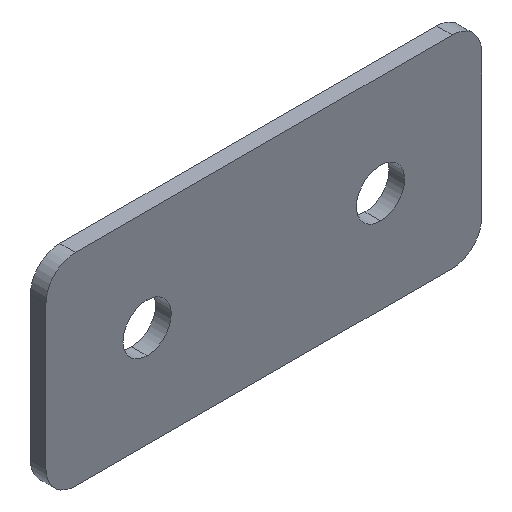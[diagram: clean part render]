
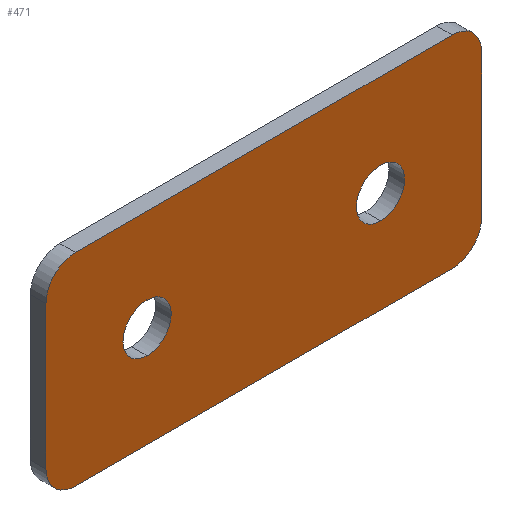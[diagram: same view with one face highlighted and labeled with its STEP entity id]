
A CAD part, isometric view. The second image highlights one B-rep face of the part: STEP entity #471.
In plain terms, the highlighted planar face has unit normal (0, -1, 0).
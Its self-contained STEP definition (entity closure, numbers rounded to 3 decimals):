
#6 = CARTESIAN_POINT ( 'NONE',  ( -9.081, 0., -9.351 ) ) ;
#8 = CIRCLE ( 'NONE', #52, 3.784 ) ;
#14 = DIRECTION ( 'NONE',  ( 0., 0., 1. ) ) ;
#20 = FACE_BOUND ( 'NONE', #391, .T. ) ;
#30 = EDGE_CURVE ( 'NONE', #383, #57, #132, .T. ) ;
#31 = CIRCLE ( 'NONE', #332, 3.784 ) ;
#33 = DIRECTION ( 'NONE',  ( 0., 1., 0. ) ) ;
#36 = VERTEX_POINT ( 'NONE', #462 ) ;
#37 = DIRECTION ( 'NONE',  ( 0., 0., -1. ) ) ;
#44 = CARTESIAN_POINT ( 'NONE',  ( 30.135, 0., -0.135 ) ) ;
#46 = ORIENTED_EDGE ( 'NONE', *, *, #241, .T. ) ;
#47 = DIRECTION ( 'NONE',  ( 0., 1., 0. ) ) ;
#52 = AXIS2_PLACEMENT_3D ( 'NONE', #170, #456, #14 ) ;
#53 = DIRECTION ( 'NONE',  ( 0., 0., 1. ) ) ;
#54 = DIRECTION ( 'NONE',  ( 1., 0., 0. ) ) ;
#57 = VERTEX_POINT ( 'NONE', #336 ) ;
#61 = AXIS2_PLACEMENT_3D ( 'NONE', #496, #366, #455 ) ;
#67 = CARTESIAN_POINT ( 'NONE',  ( 0.135, 0., -0.135 ) ) ;
#70 = DIRECTION ( 'NONE',  ( 0., 0., 1. ) ) ;
#73 = VERTEX_POINT ( 'NONE', #466 ) ;
#76 = LINE ( 'NONE', #503, #504 ) ;
#84 = ORIENTED_EDGE ( 'NONE', *, *, #185, .T. ) ;
#86 = ORIENTED_EDGE ( 'NONE', *, *, #127, .F. ) ;
#88 = CIRCLE ( 'NONE', #482, 3.784 ) ;
#101 = ORIENTED_EDGE ( 'NONE', *, *, #420, .F. ) ;
#107 = EDGE_CURVE ( 'NONE', #499, #407, #207, .T. ) ;
#111 = DIRECTION ( 'NONE',  ( -1., 0., 0. ) ) ;
#113 = AXIS2_PLACEMENT_3D ( 'NONE', #44, #318, #37 ) ;
#115 = DIRECTION ( 'NONE',  ( 0., 1., 0. ) ) ;
#127 = EDGE_CURVE ( 'NONE', #317, #499, #76, .T. ) ;
#132 = CIRCLE ( 'NONE', #515, 3.1 ) ;
#147 = DIRECTION ( 'NONE',  ( 0., 0., 1. ) ) ;
#150 = VECTOR ( 'NONE', #493, 1000. ) ;
#151 = CARTESIAN_POINT ( 'NONE',  ( -12.865, 0., -9.351 ) ) ;
#162 = EDGE_CURVE ( 'NONE', #36, #169, #88, .T. ) ;
#169 = VERTEX_POINT ( 'NONE', #440 ) ;
#170 = CARTESIAN_POINT ( 'NONE',  ( -9.081, 0., 9.081 ) ) ;
#171 = AXIS2_PLACEMENT_3D ( 'NONE', #390, #33, #439 ) ;
#175 = AXIS2_PLACEMENT_3D ( 'NONE', #67, #115, #388 ) ;
#176 = ORIENTED_EDGE ( 'NONE', *, *, #162, .F. ) ;
#177 = DIRECTION ( 'NONE',  ( 0., 0., -1. ) ) ;
#183 = ORIENTED_EDGE ( 'NONE', *, *, #218, .F. ) ;
#185 = EDGE_CURVE ( 'NONE', #57, #383, #372, .T. ) ;
#184 = VERTEX_POINT ( 'NONE', #151 ) ;
#203 = CARTESIAN_POINT ( 'NONE',  ( 43.135, 0., 9.081 ) ) ;
#207 = CIRCLE ( 'NONE', #235, 3.784 ) ;
#211 = FACE_BOUND ( 'NONE', #228, .T. ) ;
#218 = EDGE_CURVE ( 'NONE', #169, #519, #283, .T. ) ;
#219 = DIRECTION ( 'NONE',  ( 0., 1., 0. ) ) ;
#225 = CARTESIAN_POINT ( 'NONE',  ( 39.351, 0., -13.135 ) ) ;
#228 = EDGE_LOOP ( 'NONE', ( #382, #46 ) ) ;
#233 = CARTESIAN_POINT ( 'NONE',  ( 43.135, 0., 9.081 ) ) ;
#235 = AXIS2_PLACEMENT_3D ( 'NONE', #457, #219, #147 ) ;
#237 = VECTOR ( 'NONE', #312, 1000. ) ;
#241 = EDGE_CURVE ( 'NONE', #280, #510, #343, .T. ) ;
#244 = DIRECTION ( 'NONE',  ( 0., 1., 0. ) ) ;
#247 = LINE ( 'NONE', #233, #150 ) ;
#251 = ORIENTED_EDGE ( 'NONE', *, *, #295, .F. ) ;
#262 = DIRECTION ( 'NONE',  ( 0., 1., 0. ) ) ;
#280 = VERTEX_POINT ( 'NONE', #490 ) ;
#281 = CARTESIAN_POINT ( 'NONE',  ( 0.135, 0., -3.235 ) ) ;
#282 = PLANE ( 'NONE',  #61 ) ;
#283 = LINE ( 'NONE', #225, #396 ) ;
#295 = EDGE_CURVE ( 'NONE', #407, #36, #247, .T. ) ;
#296 = CARTESIAN_POINT ( 'NONE',  ( 30.135, 0., 2.965 ) ) ;
#303 = CARTESIAN_POINT ( 'NONE',  ( 39.351, 0., -9.351 ) ) ;
#306 = ORIENTED_EDGE ( 'NONE', *, *, #323, .F. ) ;
#312 = DIRECTION ( 'NONE',  ( 0., 0., 1. ) ) ;
#313 = LINE ( 'NONE', #315, #237 ) ;
#315 = CARTESIAN_POINT ( 'NONE',  ( -12.865, 0., -9.351 ) ) ;
#317 = VERTEX_POINT ( 'NONE', #523 ) ;
#318 = DIRECTION ( 'NONE',  ( 0., 1., 0. ) ) ;
#323 = EDGE_CURVE ( 'NONE', #184, #73, #313, .T. ) ;
#332 = AXIS2_PLACEMENT_3D ( 'NONE', #6, #47, #53 ) ;
#336 = CARTESIAN_POINT ( 'NONE',  ( 0.135, 0., 2.965 ) ) ;
#343 = CIRCLE ( 'NONE', #113, 3.1 ) ;
#344 = ORIENTED_EDGE ( 'NONE', *, *, #406, .F. ) ;
#345 = ORIENTED_EDGE ( 'NONE', *, *, #107, .F. ) ;
#366 = DIRECTION ( 'NONE',  ( 0., 1., 0. ) ) ;
#372 = CIRCLE ( 'NONE', #175, 3.1 ) ;
#382 = ORIENTED_EDGE ( 'NONE', *, *, #520, .T. ) ;
#383 = VERTEX_POINT ( 'NONE', #281 ) ;
#388 = DIRECTION ( 'NONE',  ( 0., 0., -1. ) ) ;
#390 = CARTESIAN_POINT ( 'NONE',  ( 30.135, 0., -0.135 ) ) ;
#391 = EDGE_LOOP ( 'NONE', ( #84, #521 ) ) ;
#396 = VECTOR ( 'NONE', #111, 1000. ) ;
#402 = EDGE_LOOP ( 'NONE', ( #344, #306, #101, #183, #176, #251, #345, #86 ) ) ;
#406 = EDGE_CURVE ( 'NONE', #73, #317, #8, .T. ) ;
#407 = VERTEX_POINT ( 'NONE', #203 ) ;
#413 = CARTESIAN_POINT ( 'NONE',  ( -9.081, 0., -13.135 ) ) ;
#420 = EDGE_CURVE ( 'NONE', #519, #184, #31, .T. ) ;
#427 = CIRCLE ( 'NONE', #171, 3.1 ) ;
#439 = DIRECTION ( 'NONE',  ( 0., 0., -1. ) ) ;
#440 = CARTESIAN_POINT ( 'NONE',  ( 39.351, 0., -13.135 ) ) ;
#455 = DIRECTION ( 'NONE',  ( 0., 0., 1. ) ) ;
#456 = DIRECTION ( 'NONE',  ( 0., 1., 0. ) ) ;
#457 = CARTESIAN_POINT ( 'NONE',  ( 39.351, 0., 9.081 ) ) ;
#460 = CARTESIAN_POINT ( 'NONE',  ( 39.351, 0., 12.865 ) ) ;
#462 = CARTESIAN_POINT ( 'NONE',  ( 43.135, 0., -9.351 ) ) ;
#466 = CARTESIAN_POINT ( 'NONE',  ( -12.865, 0., 9.081 ) ) ;
#471 = ADVANCED_FACE ( 'NONE', ( #20, #211, #492 ), #282, .F. ) ;
#482 = AXIS2_PLACEMENT_3D ( 'NONE', #303, #262, #70 ) ;
#490 = CARTESIAN_POINT ( 'NONE',  ( 30.135, 0., -3.235 ) ) ;
#492 = FACE_OUTER_BOUND ( 'NONE', #402, .T. ) ;
#493 = DIRECTION ( 'NONE',  ( 0., 0., -1. ) ) ;
#496 = CARTESIAN_POINT ( 'NONE',  ( -9.081, 0., 9.081 ) ) ;
#499 = VERTEX_POINT ( 'NONE', #460 ) ;
#503 = CARTESIAN_POINT ( 'NONE',  ( -9.081, 0., 12.865 ) ) ;
#504 = VECTOR ( 'NONE', #54, 1000. ) ;
#507 = CARTESIAN_POINT ( 'NONE',  ( 0.135, 0., -0.135 ) ) ;
#510 = VERTEX_POINT ( 'NONE', #296 ) ;
#515 = AXIS2_PLACEMENT_3D ( 'NONE', #507, #244, #177 ) ;
#519 = VERTEX_POINT ( 'NONE', #413 ) ;
#520 = EDGE_CURVE ( 'NONE', #510, #280, #427, .T. ) ;
#521 = ORIENTED_EDGE ( 'NONE', *, *, #30, .T. ) ;
#523 = CARTESIAN_POINT ( 'NONE',  ( -9.081, 0., 12.865 ) ) ;
